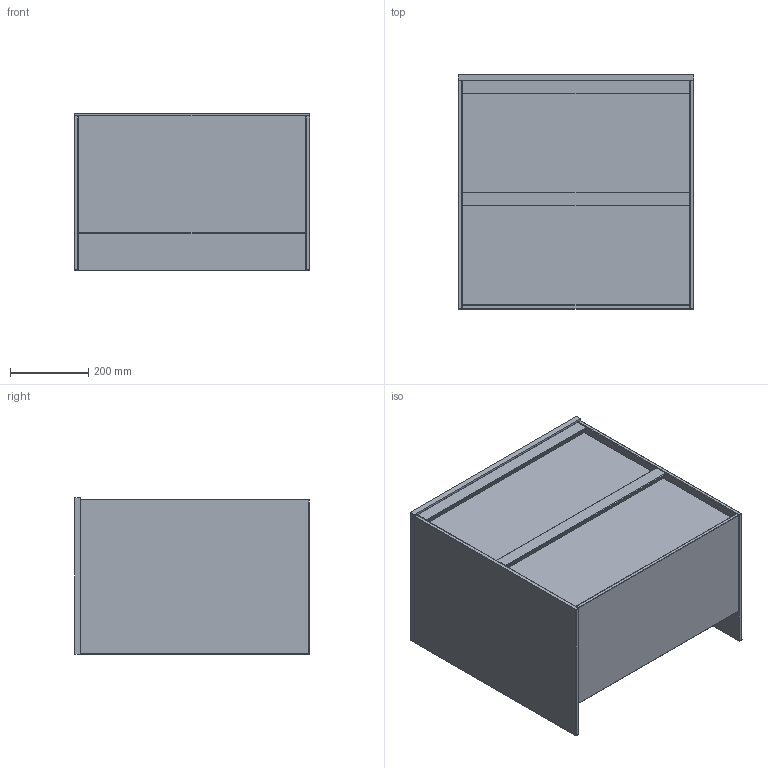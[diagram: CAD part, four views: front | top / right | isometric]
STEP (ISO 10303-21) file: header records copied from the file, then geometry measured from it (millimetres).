
FILE_DESCRIPTION (( 'STEP AP203' ), '1' );
FILE_NAME ('H2-60-S-Shell-drawing.STEP', '2024-10-23T07:58:40', ( '' ), ( '' ), 'SwSTEP 2.0', 'SolidWorks 2024', '' );
FILE_SCHEMA (( 'CONFIG_CONTROL_DESIGN' ));
Length unit declared in the file: millimetre
Products named in the file (6): handtag-580x35x20; Stenskiva-600x400x15; Botten-580x300x10; lådfront-580x287x10; Sida-584x395x10; H2-60-S-Shell-drawing
Assembly tree (8 placements, depth 2):
  H2-60-S-Shell-drawing
    Botten-580x300x10
    lådfront-580x287x10  x2
    Sida-584x395x10  x2
    Stenskiva-600x400x15
    handtag-580x35x20  x2
Bounding box: 600 x 599 x 400 mm (x, y, z)
Volume: 13973484.8 mm3; surface area: 2648480.3 mm2
Topology: 8 solids, 8 shells, 188 faces, 406 edges, 178 vertices
Faces by surface type: cylinder 84, sphere 56, plane 48
Entity records: 3364 total; most frequent: DIRECTION 542, CARTESIAN_POINT 429, ORIENTED_EDGE 408, AXIS2_PLACEMENT_3D 217, EDGE_CURVE 204, FACE_OUTER_BOUND 110, EDGE_LOOP 110, ADVANCED_FACE 110
